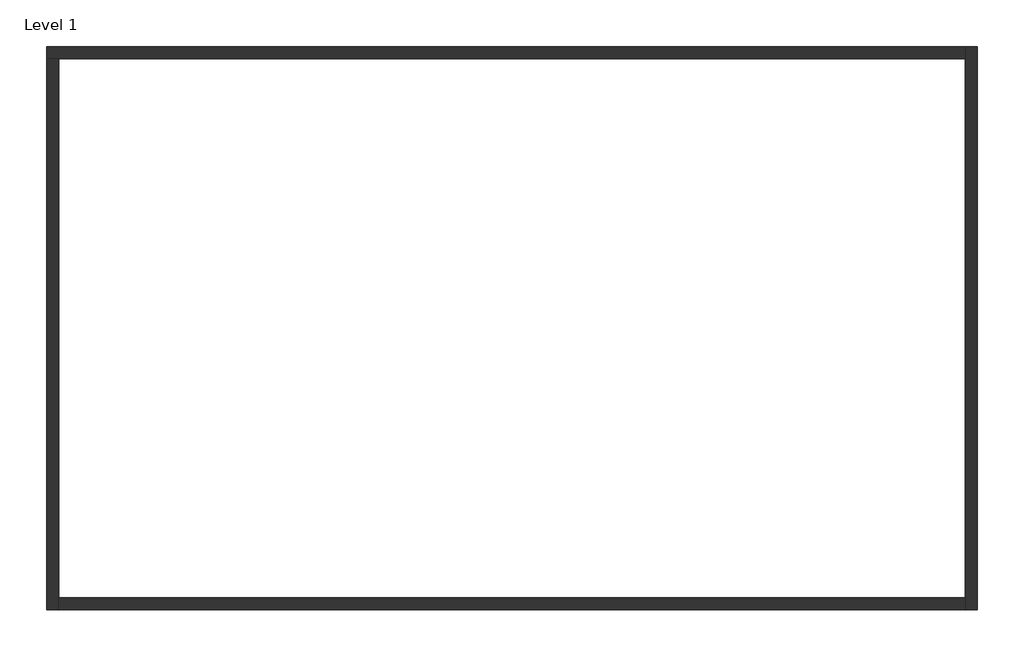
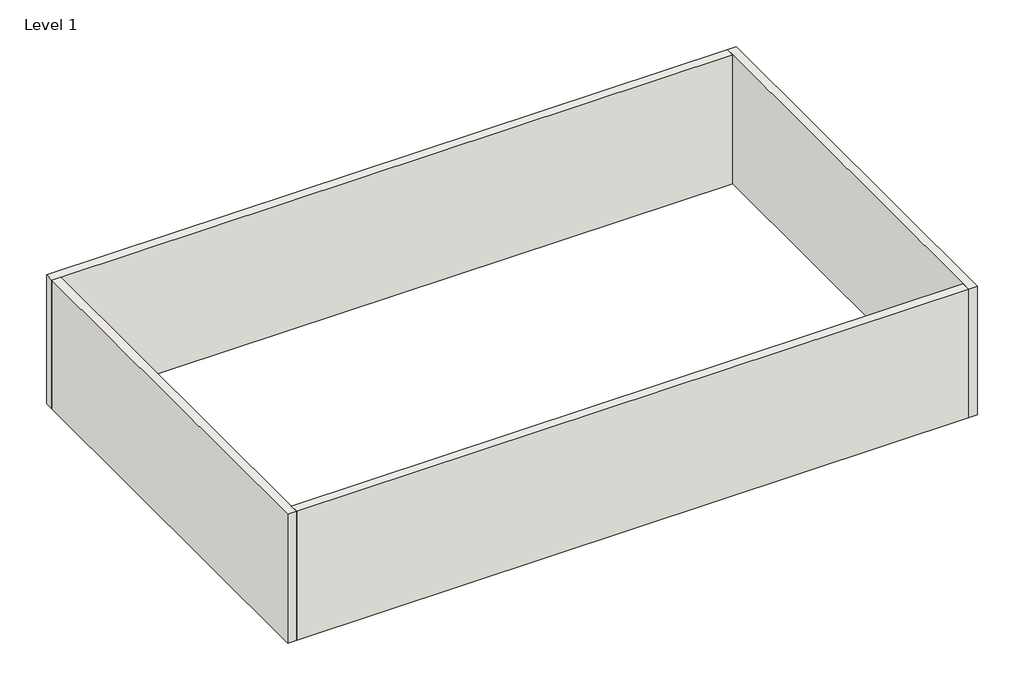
# One storey: 4 walls.
"""IFC4 building model written with IfcOpenShell, lengths in millimetres."""

import ifcopenshell
import ifcopenshell.guid

model = None  # the IFC model being written
_history = None  # IfcOwnerHistory: only IFC2X3 demands one
_inside = {}  # id of a spatial element -> (the spatial element, [elements in it])
_under = {}  # id of a project, library or spatial element -> (it, [spatial elements below it])
_declared = {}  # id of a project -> (the project, [libraries it declares])
_typed = {}  # id of a type object -> (the type object, [elements of that type])
_made_of = {}  # id of a material, layer set ... -> (it, [elements and type objects made of it])


def new_model(schema):
    """Start an empty IFC model of exactly this schema.

    Asked for "IFC4X3", IfcOpenShell would pick the latest addendum, in which some entities
    have other attributes; the version numbers below select the first issue.
    IFC2X3 requires an IfcOwnerHistory on every rooted entity: one is made here for all.
    """
    global model, _history
    if schema == "IFC4X3":
        model = ifcopenshell.file(schema_version=(4, 3, 0, 0))
    else:
        model = ifcopenshell.file(schema=schema)
    _inside.clear()
    _under.clear()
    _declared.clear()
    _typed.clear()
    _made_of.clear()
    _history = None
    if model.schema == "IFC2X3":
        org = make("IfcOrganization", Name="unknown")
        user = make(
            "IfcPersonAndOrganization",
            ThePerson=make("IfcPerson", FamilyName="unknown"),
            TheOrganization=org,
        )
        app = make(
            "IfcApplication",
            ApplicationDeveloper=org,
            Version="unknown",
            ApplicationFullName="unknown",
            ApplicationIdentifier="unknown",
        )
        _history = make(
            "IfcOwnerHistory",
            OwningUser=user,
            OwningApplication=app,
            ChangeAction="ADDED",
            CreationDate=0,
        )
    return model


def make(cls, **values):
    """One entity of the class cls with the attributes given. An attribute that is None is left unset."""
    return model.create_entity(
        cls, **{name: value for name, value in values.items() if value is not None}
    )


def rooted(cls, **values):
    """An entity with a GlobalId (a new one), such as an element, a storey or a relation."""
    return make(cls, GlobalId=ifcopenshell.guid.new(), OwnerHistory=_history, **values)


def si_unit(unit_type, name, prefix=None):
    """IfcSIUnit, for example si_unit("LENGTHUNIT", "METRE", prefix="MILLI")."""
    return make("IfcSIUnit", UnitType=unit_type, Prefix=prefix, Name=name)


def assignment(units):
    """IfcUnitAssignment: the units of a project."""
    return None if units is None else make("IfcUnitAssignment", Units=units)


def point(xyz):
    """IfcCartesianPoint."""
    return None if xyz is None else make("IfcCartesianPoint", Coordinates=xyz)


def direction(xyz):
    """IfcDirection."""
    return None if xyz is None else make("IfcDirection", DirectionRatios=xyz)


def frame(location, z_axis=None, x_axis=None):
    """IfcAxis2Placement3D, a coordinate frame: its origin and axes. An axis left out is left unset."""
    return make(
        "IfcAxis2Placement3D",
        Location=point(location),
        Axis=direction(z_axis),
        RefDirection=direction(x_axis),
    )


def origin():
    """The frame at (0, 0, 0) with its axes left unset."""
    return frame((0.0, 0.0, 0.0))


def origin_with_axes():
    """The frame at (0, 0, 0) with the z axis (0, 0, 1) and the x axis (1, 0, 0) written out."""
    return frame((0.0, 0.0, 0.0), z_axis=(0.0, 0.0, 1.0), x_axis=(1.0, 0.0, 0.0))


def place(relative_to, where):
    """IfcLocalPlacement: puts the frame where relative to a parent placement (None: the world)."""
    return make(
        "IfcLocalPlacement", PlacementRelTo=relative_to, RelativePlacement=where
    )


def context(
    kind, dimensions, precision=None, world=None, true_north=None, identifier=None
):
    """IfcGeometricRepresentationContext, for example the 3D "Model" context."""
    return make(
        "IfcGeometricRepresentationContext",
        ContextIdentifier=identifier,
        ContextType=kind,
        CoordinateSpaceDimension=dimensions,
        Precision=precision,
        WorldCoordinateSystem=world,
        TrueNorth=true_north,
    )


def project(units=None, contexts=None):
    """IfcProject with its units and contexts."""
    return rooted(
        "IfcProject",
        Name="project",
        RepresentationContexts=contexts,
        UnitsInContext=assignment(units),
    )


def spatial(cls, under=None, at=None, **own):
    """A site, building, storey or space (cls), placed at a placement, below another one or the project."""
    s = rooted(cls, ObjectPlacement=at, **own)
    if under is not None:
        _under.setdefault(under.id(), (under, []))[1].append(s)
    return s


def polyline(points):
    """IfcPolyline through the points."""
    return make("IfcPolyline", Points=[point(p) for p in points])


def outline(outer, holes=None, kind="AREA"):
    """IfcArbitraryClosedProfileDef: a profile drawn as a closed curve; with holes, ...WithVoids."""
    if holes is None:
        return make("IfcArbitraryClosedProfileDef", ProfileType=kind, OuterCurve=outer)
    return make(
        "IfcArbitraryProfileDefWithVoids",
        ProfileType=kind,
        OuterCurve=outer,
        InnerCurves=holes,
    )


def extrude(swept, where, along, depth):
    """IfcExtrudedAreaSolid: the profile swept, set in the frame where, extruded along a direction by depth."""
    return make(
        "IfcExtrudedAreaSolid",
        SweptArea=swept,
        Position=where,
        ExtrudedDirection=direction(along),
        Depth=depth,
    )


def faces_of(points, faces, orient=None, outer=None):
    """IfcFace entities. A face is a list of loops; a loop is a list of indices into points, from 0.

    orient and outer hold one flag for each loop. By default every Orientation is true, the
    first loop of a face is its IfcFaceOuterBound and the others are IfcFaceBound.
    """
    made = []
    for i, loops in enumerate(faces):
        bounds = []
        for j, loop in enumerate(loops):
            is_outer = j == 0 if outer is None else outer[i][j]
            bounds.append(
                make(
                    "IfcFaceOuterBound" if is_outer else "IfcFaceBound",
                    Bound=make("IfcPolyLoop", Polygon=[points[k] for k in loop]),
                    Orientation=True if orient is None else orient[i][j],
                )
            )
        made.append(make("IfcFace", Bounds=bounds))
    return made


def faceted_brep(points, faces, orient=None, outer=None, voids=None):
    """IfcFacetedBrep: a solid bounded by flat faces; with voids (closed shells), ...WithVoids."""
    shared = [point(p) for p in points]
    hull = make("IfcClosedShell", CfsFaces=faces_of(shared, faces, orient, outer))
    if voids is None:
        return make("IfcFacetedBrep", Outer=hull)
    return make(
        "IfcFacetedBrepWithVoids",
        Outer=hull,
        Voids=[
            make(cls, CfsFaces=faces_of(shared, fs, o, b)) for cls, fs, o, b in voids
        ],
    )


def shape(context_of_items, identifier, shape_type, items):
    """IfcShapeRepresentation: the items that make up one representation, for example the "Body"."""
    return make(
        "IfcShapeRepresentation",
        ContextOfItems=context_of_items,
        RepresentationIdentifier=identifier,
        RepresentationType=shape_type,
        Items=items,
    )


def made_of(thing, what):
    """Note that an element or type object is made of a material, layer set ...; save() writes the relation."""
    if what is not None:
        _made_of.setdefault(what.id(), (what, []))[1].append(thing)
    return thing


def element(
    cls,
    number,
    at=None,
    inside=None,
    cuts=None,
    type_object=None,
    material=None,
    context=None,
    identifier="Body",
    shape_type=None,
    held_by="IfcProductDefinitionShape",
    body=None,
    shapes=None,
    **own,
):
    """One element of the class cls, such as IfcWall. Its Tag is "e" and its number.

    at: its placement. inside: the storey or other place that contains it. cuts: it is an
    opening in that element (IfcRelVoidsElement). A single representation is given by context,
    identifier, shape_type and body (its items); several are given by shapes. held_by: the class
    of the entity that holds the representations. save() writes the other relations.
    """
    e = rooted(cls, Tag="e%d" % number, ObjectPlacement=at, **own)
    if body is not None:
        shapes = [shape(context, identifier, shape_type, body)]
    if shapes is not None:
        e.Representation = make(held_by, Representations=shapes)
    if inside is not None:
        _inside.setdefault(inside.id(), (inside, []))[1].append(e)
    if cuts is not None:
        rooted(
            "IfcRelVoidsElement", RelatingBuildingElement=cuts, RelatedOpeningElement=e
        )
    if type_object is not None:
        _typed.setdefault(type_object.id(), (type_object, []))[1].append(e)
    return made_of(e, material)


def aggregate(whole, parts):
    """IfcRelAggregates: a whole, such as a stair, and the parts it consists of."""
    return rooted("IfcRelAggregates", RelatingObject=whole, RelatedObjects=parts)


def save(model, path):
    """Write the relations noted so far, then the file.

    IfcRelAggregates (storeys below a building ...), IfcRelContainedInSpatialStructure (elements
    in a storey), IfcRelDefinesByType, IfcRelAssociatesMaterial and IfcRelDeclares: one each for
    every whole, place, type object, material and project.
    """
    for whole, parts in _under.values():
        aggregate(whole, parts)
    for where, things in _inside.values():
        rooted(
            "IfcRelContainedInSpatialStructure",
            RelatedElements=things,
            RelatingStructure=where,
        )
    for kind, things in _typed.values():
        rooted("IfcRelDefinesByType", RelatedObjects=things, RelatingType=kind)
    for what, things in _made_of.values():
        rooted("IfcRelAssociatesMaterial", RelatedObjects=things, RelatingMaterial=what)
    for by, libraries in _declared.values():
        rooted("IfcRelDeclares", RelatingContext=by, RelatedDefinitions=libraries)
    model.write(path)


model = new_model("IFC4")

# Units and contexts
model_context = context("Model", 3, world=origin())
ifc_project = project(units=[si_unit("LENGTHUNIT", "METRE", prefix="MILLI")], contexts=[model_context])

# Site, building, storey
site = spatial("IfcSite", under=ifc_project)
building = spatial("IfcBuilding", under=site)
storey = spatial("IfcBuildingStorey", under=building, Name="Level 1", Elevation=0.0)

# Walls
placement = place(None, origin())
element("IfcWall", 1, ObjectType="Generic - 8\"", at=placement, inside=storey, context=model_context, shape_type="Brep", body=[
    faceted_brep([(-7840.93909, 9212.1412302, 0.0), (-7637.73909, 9212.1412302, 0.0), (7399.06091, 9212.1412302, 0.0), (7399.06091, 9212.1412302, 3048.0), (-7637.73909, 9212.1412302, 3048.0), (-7840.93909, 9212.1412302, 3048.0), (-7840.93909, 9415.3412302, 0.0), (-7840.93909, 9415.3412302, 3048.0), (7399.06091, 9415.3412302, 3048.0), (7399.06091, 9415.3412302, 0.0)], [[[0, 1, 2, 3, 4, 5]], [[6, 7, 8, 9]], [[2, 1, 0, 6, 9]], [[5, 4, 3, 8, 7]], [[0, 5, 7, 6]], [[3, 2, 9, 8]]]),
])
element("IfcWall", 2, ObjectType="Generic - 8\"", at=placement, inside=storey, context=model_context, shape_type="Brep", body=[
    faceted_brep([(-7637.73909, 68.1412302, 0.0), (-7637.73909, 271.3412302, 0.0), (-7637.73909, 9212.1412302, 0.0), (-7637.73909, 9212.1412302, 3048.0), (-7637.73909, 271.3412302, 3048.0), (-7637.73909, 68.1412302, 3048.0), (-7840.93909, 68.1412302, 0.0), (-7840.93909, 68.1412302, 3048.0), (-7840.93909, 9212.1412302, 3048.0), (-7840.93909, 9212.1412302, 0.0)], [[[0, 1, 2, 3, 4, 5]], [[6, 7, 8, 9]], [[2, 1, 0, 6, 9]], [[5, 4, 3, 8, 7]], [[0, 5, 7, 6]], [[3, 2, 9, 8]]]),
])
element("IfcWall", 3, ObjectType="Generic - 8\"", at=placement, inside=storey, context=model_context, shape_type="SweptSolid", body=[
    extrude(outline(polyline([(-7637.73909, 271.3412302), (7399.06091, 271.3412302), (7399.06091, 68.1412302), (-7637.73909, 68.1412302), (-7637.73909, 271.3412302)])), origin_with_axes(), (0.0, 0.0, 1.0), 3048.0),
])
element("IfcWall", 4, ObjectType="Generic - 8\"", at=placement, inside=storey, context=model_context, shape_type="Brep", body=[
    faceted_brep([(7399.06091, 9415.3412302, 0.0), (7399.06091, 9212.1412302, 0.0), (7399.06091, 271.3412302, 0.0), (7399.06091, 68.1412302, 0.0), (7399.06091, 68.1412302, 3048.0), (7399.06091, 271.3412302, 3048.0), (7399.06091, 9212.1412302, 3048.0), (7399.06091, 9415.3412302, 3048.0), (7602.26091, 9415.3412302, 0.0), (7602.26091, 9415.3412302, 3048.0), (7602.26091, 68.1412302, 3048.0), (7602.26091, 68.1412302, 0.0)], [[[0, 1, 2, 3, 4, 5, 6, 7]], [[8, 9, 10, 11]], [[3, 2, 1, 0, 8, 11]], [[7, 6, 5, 4, 10, 9]], [[0, 7, 9, 8]], [[4, 3, 11, 10]]]),
])

save(model, "model.ifc")
